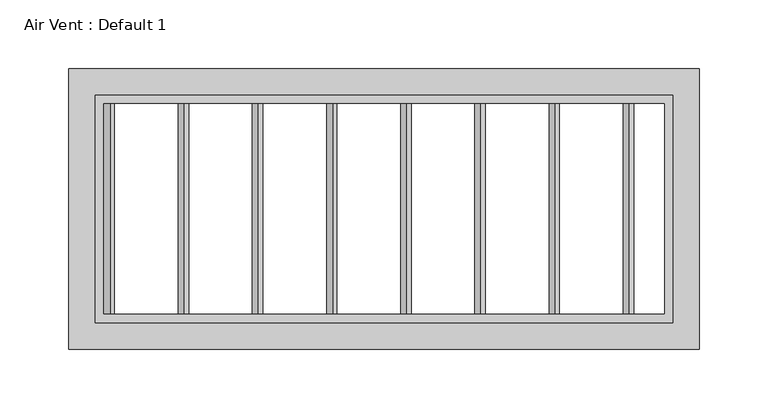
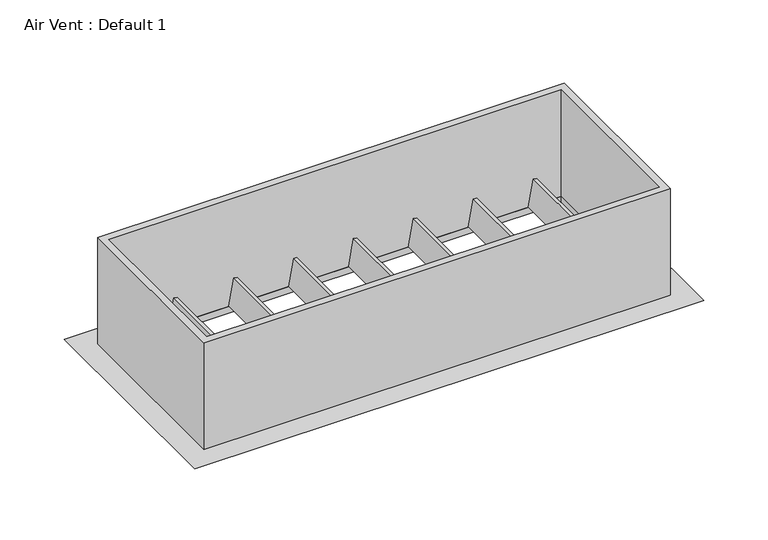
"""IFC4 building model written with IfcOpenShell, lengths in millimetres: proxy geometry, Air Vent : Default 1."""

from ifc_helpers import new_model, si_unit, frame, origin, place, context, project, spatial, polyline, outline, extrude, faceted_brep, source, transform, mapped, element, save


def air_vent_default_1_b1e9e62e(model_context):
    return source(origin(), model_context, "Body", "SolidModel", [
        extrude(outline(polyline([(0.0, -3.175), (0.0, 0.0), (152.4, 0.0), (152.4, -3.175), (0.0, -3.175)])), frame((-149.370372, -76.2, 2438.951333), z_axis=(0.1736481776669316, 0.0, 0.9848077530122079), x_axis=(0.0, 1.0, 0.0)), (0.0, 0.0, 1.0), 25.4),
        extrude(outline(polyline([(0.0, -3.175), (0.0, 0.0), (152.4, 0.0), (152.4, -3.175), (0.0, -3.175)])), frame((-95.5407441, -76.2, 2438.951333), z_axis=(0.1736481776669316, 0.0, 0.9848077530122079), x_axis=(0.0, 1.0, 0.0)), (0.0, 0.0, 1.0), 25.4),
        extrude(outline(polyline([(0.0, -3.175), (0.0, 0.0), (152.4, 0.0), (152.4, -3.175), (0.0, -3.175)])), frame((-41.7111161, -76.2, 2438.951333), z_axis=(0.1736481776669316, 0.0, 0.9848077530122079), x_axis=(0.0, 1.0, 0.0)), (0.0, 0.0, 1.0), 25.4),
        extrude(outline(polyline([(0.0, -3.175), (0.0, 0.0), (152.4, 0.0), (152.4, -3.175), (0.0, -3.175)])), frame((12.1185118, -76.2, 2438.951333), z_axis=(0.1736481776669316, 0.0, 0.9848077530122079), x_axis=(0.0, 1.0, 0.0)), (0.0, 0.0, 1.0), 25.4),
        extrude(outline(polyline([(0.0, -3.175), (0.0, 0.0), (152.4, 0.0), (152.4, -3.175), (0.0, -3.175)])), frame((65.9481398, -76.2, 2438.951333), z_axis=(0.1736481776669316, 0.0, 0.9848077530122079), x_axis=(0.0, 1.0, 0.0)), (0.0, 0.0, 1.0), 25.4),
        extrude(outline(polyline([(0.0, -3.1750001), (0.0, 0.0), (152.4, 0.0), (152.4, -3.1750001), (0.0, -3.1750001)])), frame((119.7777677, -76.2, 2438.951333), z_axis=(0.1736481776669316, 0.0, 0.9848077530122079), x_axis=(0.0, 1.0, 0.0)), (0.0, 0.0, 1.0), 25.4),
        extrude(outline(polyline([(0.0, -3.175), (0.0, 0.0), (152.4, 0.0), (152.4, -3.175), (0.0, -3.175)])), frame((173.6073957, -76.2, 2438.951333), z_axis=(0.1736481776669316, 0.0, 0.9848077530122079), x_axis=(0.0, 1.0, 0.0)), (0.0, 0.0, 1.0), 25.4),
        extrude(outline(polyline([(0.0, -3.175), (0.0, 0.0), (152.4, 0.0), (152.4, -3.175), (0.0, -3.175)])), frame((-203.2, -76.2, 2438.951333), z_axis=(0.1736481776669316, 0.0, 0.9848077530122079), x_axis=(0.0, 1.0, 0.0)), (0.0, 0.0, 1.0), 25.4),
        faceted_brep([(203.2, 76.2, 2438.4), (203.2, 76.2, 2432.05), (203.2, -76.2, 2432.05), (203.2, -76.2, 2438.4), (-203.2, -76.2, 2432.05), (-203.2, -76.2, 2438.4), (-203.2, 76.2, 2432.05), (-203.2, 76.2, 2438.4), (215.9, -88.9, 2432.05), (-215.9, -88.9, 2432.05), (-215.9, 88.9, 2432.05), (215.9, 88.9, 2432.05), (228.6, 101.6, 2438.4), (-228.6, 101.6, 2438.4), (-228.6, -101.6, 2438.4), (228.6, -101.6, 2438.4)], [[[0, 1, 2, 3]], [[3, 2, 4, 5]], [[5, 4, 6, 7]], [[8, 9, 10, 11], [1, 6, 4, 2]], [[12, 13, 14, 15], [3, 5, 7, 0]], [[7, 6, 1, 0]], [[11, 12, 15, 8]], [[8, 15, 14, 9]], [[9, 14, 13, 10]], [[10, 13, 12, 11]]]),
        extrude(outline(polyline([(209.55, 82.55), (209.55, -82.55), (-209.55, -82.55), (-209.55, 82.55), (209.55, 82.55)]), holes=[polyline([(203.2, 76.2), (-203.2, 76.2), (-203.2, -76.2), (203.2, -76.2), (203.2, 76.2)])]), frame((0.0, 0.0, 2438.4), z_axis=(0.0, 0.0, 1.0), x_axis=(1.0, 0.0, 0.0)), (0.0, 0.0, 1.0), 101.6),
    ])


if __name__ == "__main__":
    model = new_model("IFC4")
    model_context = context("Model", 3, world=origin())
    ifc_project = project(units=[si_unit("LENGTHUNIT", "METRE", prefix="MILLI")], contexts=[model_context])
    site = spatial("IfcSite", under=ifc_project)
    building = spatial("IfcBuilding", under=site)
    placement = place(None, origin())
    air_vent_default_1_shape = air_vent_default_1_b1e9e62e(model_context)
    element("IfcBuildingElementProxy", 1, Name="Air Vent : Default 1", ObjectType="Air Vent : Default 1", at=placement, inside=building, context=model_context, shape_type="MappedRepresentation", body=[
        mapped(air_vent_default_1_shape, transform((0.0, 0.0, 0.0), x_axis=(1.0, 0.0, 0.0), y_axis=(0.0, 1.0, 0.0), z_axis=(0.0, 0.0, 1.0))),
    ])
    save(model, "model.ifc")
